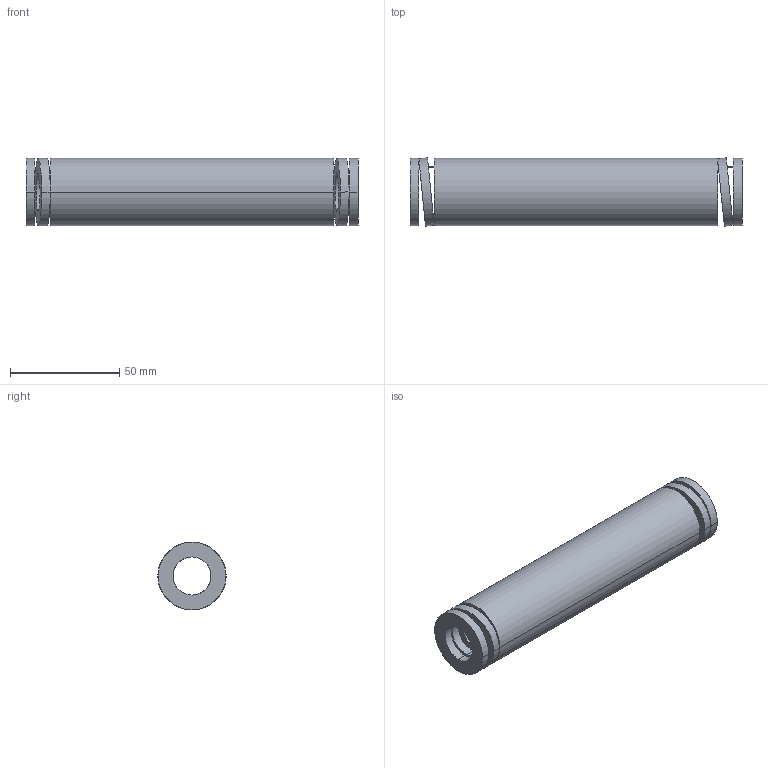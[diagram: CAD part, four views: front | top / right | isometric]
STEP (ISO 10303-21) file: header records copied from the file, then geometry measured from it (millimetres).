
FILE_DESCRIPTION(('CATIA V5 STEP Exchange'),'2;1');
FILE_NAME('C:\Users\Utente\Desktop\IO LAVORO\3D X SITO CF\X SITO\3D files 392B\392-B32-152.stp','2021-08-13T08:51:39+00:00',('none'),('none'),'CATIA Version 5 Release 20 GA (IN-10)','CATIA V5 STEP AP203','none');
FILE_SCHEMA(('CONFIG_CONTROL_DESIGN'));
Length unit declared in the file: millimetre
Products named in the file (1): 392-B32-152
Bounding box: 152 x 31.24 x 31 mm (x, y, z)
Volume: 75263 mm3; surface area: 27309.9 mm2
Topology: 1 solids, 1 shells, 38 faces, 92 edges, 64 vertices
Faces by surface type: cylinder 28, plane 10
Entity records: 1560 total; most frequent: CARTESIAN_POINT 667, ORIENTED_EDGE 184, DIRECTION 131, EDGE_CURVE 92, AXIS2_PLACEMENT_3D 66, VERTEX_POINT 64, EDGE_LOOP 56, ADVANCED_FACE 38
